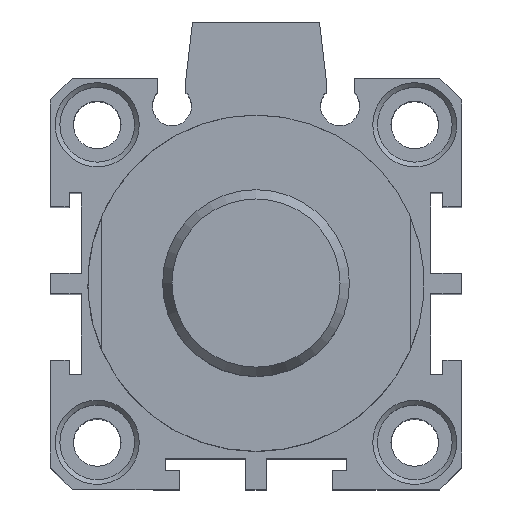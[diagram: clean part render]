
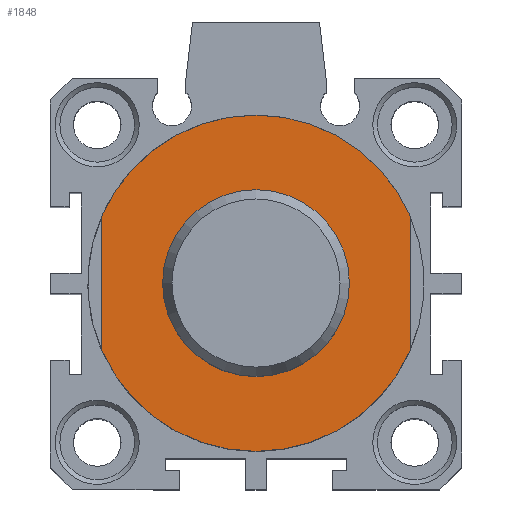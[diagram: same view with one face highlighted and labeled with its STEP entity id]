
A CAD part, top view. The second image highlights one B-rep face of the part: STEP entity #1848.
In plain terms, the highlighted planar face has unit normal (0, 0, 1).
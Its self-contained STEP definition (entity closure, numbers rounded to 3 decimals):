
#1695=CARTESIAN_POINT('',(-3.726,9.88,78.0));
#1696=VERTEX_POINT('',#1695);
#1697=CARTESIAN_POINT('',(-3.726,-0.12,78.0));
#1698=DIRECTION('',(0.0,0.0,-1.0));
#1699=DIRECTION('',(0.0,1.0,0.0));
#1700=AXIS2_PLACEMENT_3D('',#1697,#1698,#1699);
#1701=CIRCLE('',#1700,10.0);
#1702=EDGE_CURVE('',#1696,#1696,#1701,.T.);
#1725=CARTESIAN_POINT('',(12.774,7.074,78.0));
#1726=VERTEX_POINT('',#1725);
#1733=CARTESIAN_POINT('',(12.774,-7.314,78.0));
#1734=VERTEX_POINT('',#1733);
#1735=CARTESIAN_POINT('',(12.774,-7.314,78.0));
#1736=DIRECTION('',(0.0,1.0,0.0));
#1737=VECTOR('',#1736,14.387);
#1738=LINE('',#1735,#1737);
#1739=EDGE_CURVE('',#1734,#1726,#1738,.T.);
#1781=CARTESIAN_POINT('',(-20.226,-7.314,78.0));
#1782=VERTEX_POINT('',#1781);
#1789=CARTESIAN_POINT('',(-20.226,7.074,78.0));
#1790=VERTEX_POINT('',#1789);
#1791=CARTESIAN_POINT('',(-20.226,7.074,78.0));
#1792=DIRECTION('',(0.0,-1.0,0.0));
#1793=VECTOR('',#1792,14.387);
#1794=LINE('',#1791,#1793);
#1795=EDGE_CURVE('',#1790,#1782,#1794,.T.);
#1822=CARTESIAN_POINT('',(-3.726,13.88,78.0));
#1823=DIRECTION('',(0.0,0.0,1.0));
#1824=DIRECTION('',(1.0,0.0,0.0));
#1825=AXIS2_PLACEMENT_3D('',#1822,#1823,#1824);
#1826=PLANE('',#1825);
#1827=ORIENTED_EDGE('',*,*,#1739,.T.);
#1828=CARTESIAN_POINT('',(-3.726,-0.12,78.0));
#1829=DIRECTION('',(0.0,0.0,-1.0));
#1830=DIRECTION('',(0.0,1.0,0.0));
#1831=AXIS2_PLACEMENT_3D('',#1828,#1829,#1830);
#1832=CIRCLE('',#1831,18.0);
#1833=EDGE_CURVE('',#1790,#1726,#1832,.T.);
#1834=ORIENTED_EDGE('',*,*,#1833,.F.);
#1835=ORIENTED_EDGE('',*,*,#1795,.T.);
#1836=CARTESIAN_POINT('',(-3.726,-0.12,78.0));
#1837=DIRECTION('',(0.0,0.0,-1.0));
#1838=DIRECTION('',(0.0,1.0,0.0));
#1839=AXIS2_PLACEMENT_3D('',#1836,#1837,#1838);
#1840=CIRCLE('',#1839,18.0);
#1841=EDGE_CURVE('',#1734,#1782,#1840,.T.);
#1842=ORIENTED_EDGE('',*,*,#1841,.F.);
#1843=EDGE_LOOP('',(#1827,#1834,#1835,#1842));
#1844=FACE_OUTER_BOUND('',#1843,.T.);
#1845=ORIENTED_EDGE('',*,*,#1702,.T.);
#1846=EDGE_LOOP('',(#1845));
#1847=FACE_BOUND('',#1846,.T.);
#1848=ADVANCED_FACE('',(#1844,#1847),#1826,.T.);
